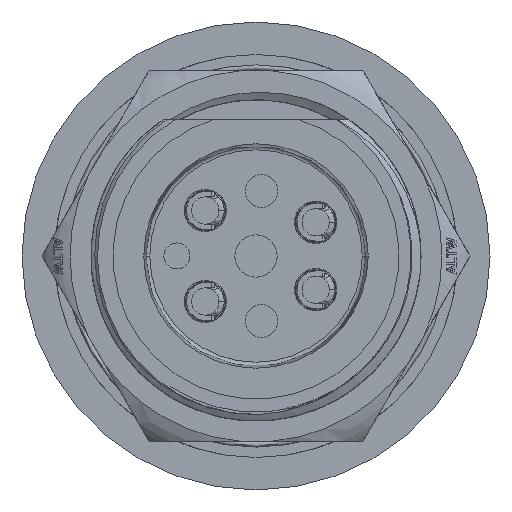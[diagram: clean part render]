
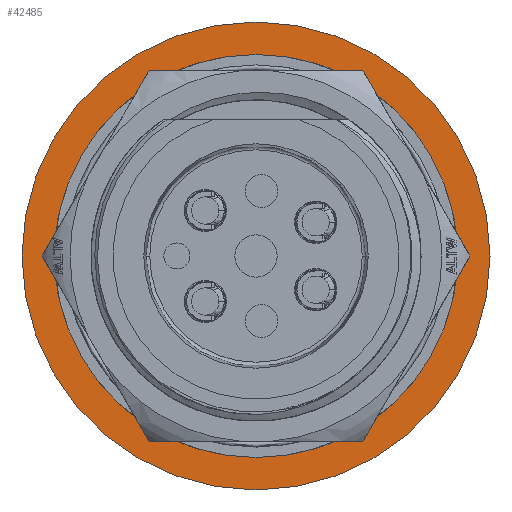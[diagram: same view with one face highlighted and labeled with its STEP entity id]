
A CAD part, left-side view. The second image highlights one B-rep face of the part: STEP entity #42485.
In plain terms, the highlighted planar face has unit normal (-1, 0, 0).
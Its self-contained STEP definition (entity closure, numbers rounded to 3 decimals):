
#6118=CARTESIAN_POINT('',(16.952,31.585,-39.379));
#6119=DIRECTION('',(-1.,0.,0.));
#6120=DIRECTION('',(0.,1.,0.));
#6121=AXIS2_PLACEMENT_3D('',#6118,#6119,#6120);
#6123=CARTESIAN_POINT('',(16.952,31.585,-39.379));
#6124=DIRECTION('',(1.,0.,0.));
#6125=DIRECTION('',(0.,1.,0.));
#6126=AXIS2_PLACEMENT_3D('',#6123,#6124,#6125);
#6128=CARTESIAN_POINT('',(16.952,31.585,-39.379));
#6129=DIRECTION('',(-1.,0.,0.));
#6130=DIRECTION('',(0.,-1.,0.));
#6131=AXIS2_PLACEMENT_3D('',#6128,#6129,#6130);
#6133=CARTESIAN_POINT('',(16.952,31.585,-39.379));
#6134=DIRECTION('',(-1.,0.,0.));
#6135=DIRECTION('',(0.,1.,0.));
#6136=AXIS2_PLACEMENT_3D('',#6133,#6134,#6135);
#29906=CARTESIAN_POINT('',(16.952,49.585,
-39.379));
#29908=VERTEX_POINT('',#29906);
#29910=CARTESIAN_POINT('',(16.952,13.585,
-39.379));
#29912=VERTEX_POINT('',#29910);
#31440=CARTESIAN_POINT('',(16.952,16.085,
-39.379));
#31441=CARTESIAN_POINT('',(16.952,47.085,
-39.379));
#31442=VERTEX_POINT('',#31440);
#31443=VERTEX_POINT('',#31441);
#42470=CARTESIAN_POINT('',(16.952,31.585,
-39.379));
#42471=DIRECTION('',(1.,0.,0.));
#42472=DIRECTION('',(0.,-1.,0.));
#42473=AXIS2_PLACEMENT_3D('',#42470,#42471,#42472);
#42474=PLANE('',#42473);
#42475=ORIENTED_EDGE('',*,*,#42449,.F.);
#42476=ORIENTED_EDGE('',*,*,#42465,.T.);
#42477=EDGE_LOOP('',(#42475,#42476));
#42478=FACE_OUTER_BOUND('',#42477,.F.);
#42480=ORIENTED_EDGE('',*,*,#42479,.T.);
#42482=ORIENTED_EDGE('',*,*,#42481,.T.);
#42483=EDGE_LOOP('',(#42480,#42482));
#42484=FACE_BOUND('',#42483,.F.);
#42485=ADVANCED_FACE('',(#42478,#42484),#42474,.F.);
#6122=CIRCLE('',#6121,18.);
#6127=CIRCLE('',#6126,18.);
#6132=CIRCLE('',#6131,15.5);
#6137=CIRCLE('',#6136,15.5);
#42449=EDGE_CURVE('',#29908,#29912,#6122,.T.);
#42465=EDGE_CURVE('',#29908,#29912,#6127,.T.);
#42479=EDGE_CURVE('',#31442,#31443,#6132,.T.);
#42481=EDGE_CURVE('',#31443,#31442,#6137,.T.);
